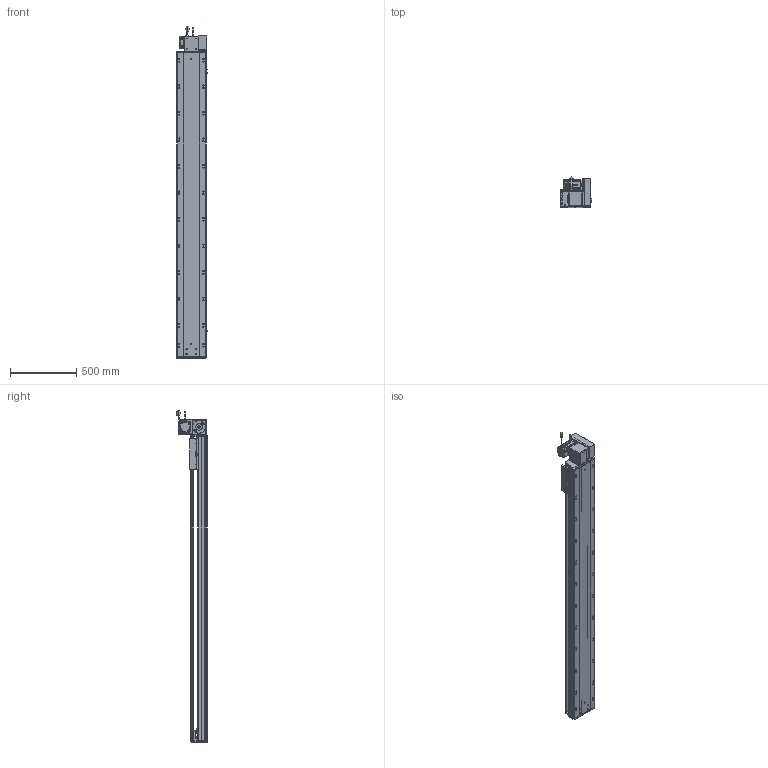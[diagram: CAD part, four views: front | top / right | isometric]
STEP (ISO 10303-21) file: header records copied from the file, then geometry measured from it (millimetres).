
FILE_DESCRIPTION (( 'STEP AP203' ), '1' );
FILE_NAME ('RY220-T-300-UR.SLDASM_1950.step', '2022-07-25T08:44:38', ( '' ), ( '' ), 'SwSTEP 2.0', 'SolidWorks 2016', '' );
FILE_SCHEMA (( 'CONFIG_CONTROL_DESIGN' ));
Length unit declared in the file: millimetre
Products named in the file (14): 覜茼ん672; RY220翋肮祭謫釱; RY220-T-300-UR.SLDASM_1950; 110A-T-肮祭謫釱傷裔; RY220圉猾敕々湍臏賑輸; RY220-T-300-奻裔啣_1950; 滅袉蝶18-15; RY220-T菁釱-300_1950; RY220-T-湍謫欶(鍼踢); 怢湛750W_ECMA-CX0807ES; RY220-同步轮副支撑座6304×2; RY220-T-蛌殏萇儂假蚾啣(750W); RY220-俋离672覜茼んえ; RY220翋肮祭謫裔啣
Assembly tree (18 placements, depth 2):
  RY220-T-300-UR.SLDASM_1950
    RY220-T菁釱-300_1950
    RY220翋肮祭謫釱
    覜茼ん672  x3
    RY220圉猾敕々湍臏賑輸
    RY220-T-300-奻裔啣_1950
    RY220-俋离672覜茼んえ
    滅袉蝶18-15  x3
    RY220翋肮祭謫裔啣  x2
    110A-T-肮祭謫釱傷裔
    怢湛750W_ECMA-CX0807ES
    RY220-T-湍謫欶(鍼踢)
    RY220-T-蛌殏萇儂假蚾啣(750W)
    RY220-同步轮副支撑座6304×2
Bounding box: 238.7 x 231.74 x 2503.27 mm (x, y, z)
Volume: 18408120.2 mm3; surface area: 5584446.4 mm2
Topology: 19 solids, 19 shells, 2822 faces, 7795 edges, 4910 vertices
Faces by surface type: cylinder 1358, plane 1069, cone 313, bspline 56, sphere 16, torus 10
Entity records: 93955 total; most frequent: CARTESIAN_POINT 26627, ORIENTED_EDGE 13946, DIRECTION 13336, EDGE_CURVE 6973, AXIS2_PLACEMENT_3D 4768, VERTEX_POINT 4534, VECTOR 3800, LINE 3800
